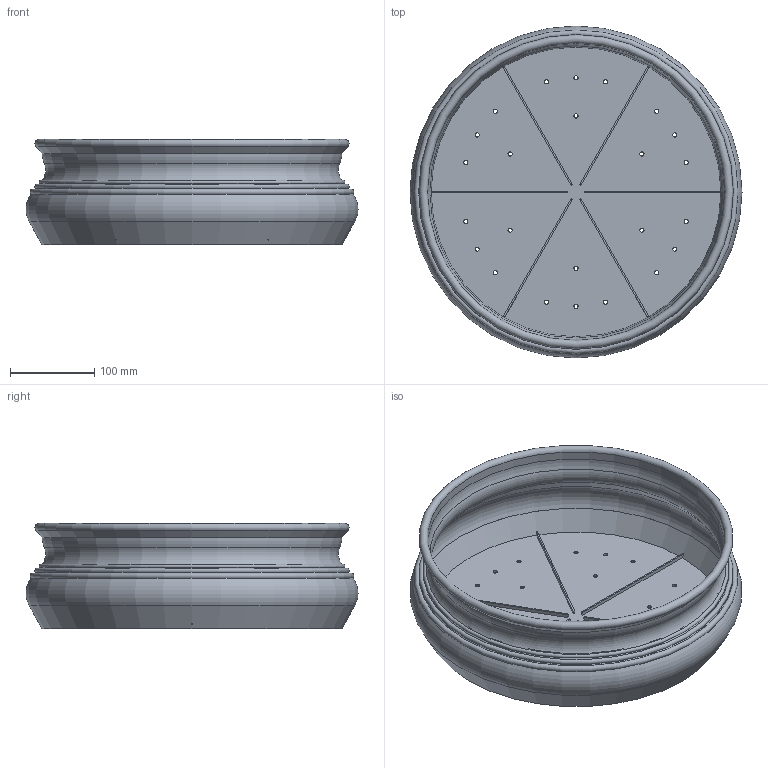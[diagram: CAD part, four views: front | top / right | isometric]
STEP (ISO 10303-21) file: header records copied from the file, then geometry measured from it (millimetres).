
FILE_DESCRIPTION(/* description */ (''),/* implementation_level */ '2;1');
FILE_NAME(/* name */ 'LR2406-S17-H125-D400_step.step',/* time_stamp */ '2024-02-01T11:04:05+01:00',/* author */ (''),/* organization */ (''),/* preprocessor_version */ 'ST-DEVELOPER v20',/* originating_system */ 'Autodesk Translation Framework v12.20.1.177',/* authorisation */ '');
FILE_SCHEMA (('AUTOMOTIVE_DESIGN { 1 0 10303 214 3 1 1 }'));
Length unit declared in the file: millimetre
Products named in the file (1): LR2406-S17-H125-D400
Bounding box: 394.71 x 394.71 x 125 mm (x, y, z)
Volume: 625503.8 mm3; surface area: 541098.6 mm2
Topology: 1 solids, 1 shells, 68 faces, 181 edges, 115 vertices
Faces by surface type: cylinder 31, plane 20, torus 10, cone 7
Full cylindrical faces by diameter (mm): 5 x24, 353.36 x1
Entity records: 2286 total; most frequent: DIRECTION 420, CARTESIAN_POINT 365, ORIENTED_EDGE 362, EDGE_CURVE 181, AXIS2_PLACEMENT_3D 170, EDGE_LOOP 116, VERTEX_POINT 115, CIRCLE 101
